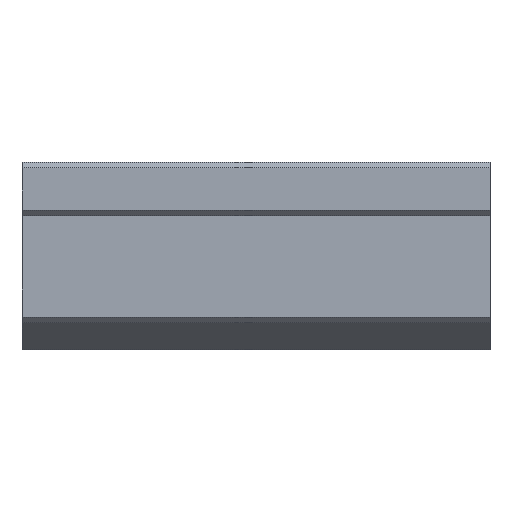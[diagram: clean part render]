
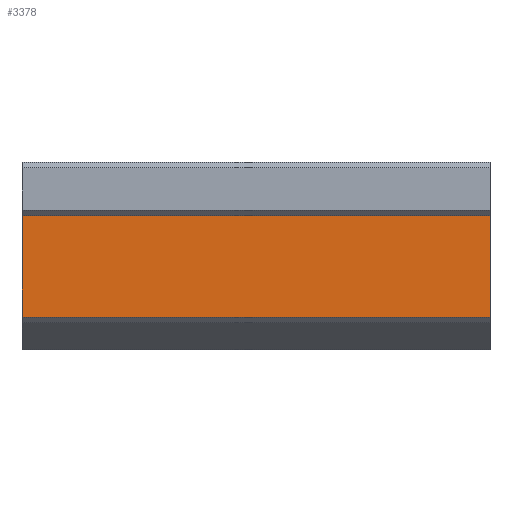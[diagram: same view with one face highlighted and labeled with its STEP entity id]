
A CAD part, top view. The second image highlights one B-rep face of the part: STEP entity #3378.
In plain terms, the highlighted planar face has unit normal (0, 0, 1).
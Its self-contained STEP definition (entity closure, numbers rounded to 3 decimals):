
#106 = PLANE('',#107);
#107 = AXIS2_PLACEMENT_3D('',#108,#109,#110);
#108 = CARTESIAN_POINT('',(35.,2.493,0.));
#109 = DIRECTION('',(1.,0.,0.));
#110 = DIRECTION('',(0.,0.,-1.));
#170 = PLANE('',#171);
#171 = AXIS2_PLACEMENT_3D('',#172,#173,#174);
#172 = CARTESIAN_POINT('',(-35.,2.493,0.));
#173 = DIRECTION('',(1.,0.,0.));
#174 = DIRECTION('',(0.,0.,-1.));
#3269 = PLANE('',#3270);
#3270 = AXIS2_PLACEMENT_3D('',#3271,#3272,#3273);
#3271 = CARTESIAN_POINT('',(-35.,-8.58,19.74));
#3272 = DIRECTION('',(0.,-0.707,0.707)
  );
#3273 = DIRECTION('',(0.,-0.707,-0.707)
  );
#3307 = VERTEX_POINT('',#3308);
#3308 = CARTESIAN_POINT('',(35.,-8.16,20.16));
#3329 = EDGE_CURVE('',#3330,#3307,#3332,.T.);
#3330 = VERTEX_POINT('',#3331);
#3331 = CARTESIAN_POINT('',(-35.,-8.16,20.16));
#3332 = SURFACE_CURVE('',#3333,(#3337,#3344),.PCURVE_S1.);
#3333 = LINE('',#3334,#3335);
#3334 = CARTESIAN_POINT('',(-35.,-8.16,20.16));
#3335 = VECTOR('',#3336,1.);
#3336 = DIRECTION('',(1.,0.,0.));
#3337 = PCURVE('',#3269,#3338);
#3338 = DEFINITIONAL_REPRESENTATION('',(#3339),#3343);
#3339 = LINE('',#3340,#3341);
#3340 = CARTESIAN_POINT('',(-0.594,0.));
#3341 = VECTOR('',#3342,1.);
#3342 = DIRECTION('',(0.,1.));
#3343 = ( GEOMETRIC_REPRESENTATION_CONTEXT(2) 
PARAMETRIC_REPRESENTATION_CONTEXT() REPRESENTATION_CONTEXT('2D SPACE',''
  ) );
#3344 = PCURVE('',#3345,#3350);
#3345 = PLANE('',#3346);
#3346 = AXIS2_PLACEMENT_3D('',#3347,#3348,#3349);
#3347 = CARTESIAN_POINT('',(-35.,-0.58,20.16));
#3348 = DIRECTION('',(0.,0.,1.));
#3349 = DIRECTION('',(0.,-1.,0.));
#3350 = DEFINITIONAL_REPRESENTATION('',(#3351),#3355);
#3351 = LINE('',#3352,#3353);
#3352 = CARTESIAN_POINT('',(7.58,0.));
#3353 = VECTOR('',#3354,1.);
#3354 = DIRECTION('',(0.,1.));
#3355 = ( GEOMETRIC_REPRESENTATION_CONTEXT(2) 
PARAMETRIC_REPRESENTATION_CONTEXT() REPRESENTATION_CONTEXT('2D SPACE',''
  ) );
#3378 = ADVANCED_FACE('',(#3379),#3345,.T.);
#3379 = FACE_BOUND('',#3380,.T.);
#3380 = EDGE_LOOP('',(#3381,#3404,#3432,#3453));
#3381 = ORIENTED_EDGE('',*,*,#3382,.T.);
#3382 = EDGE_CURVE('',#3307,#3383,#3385,.T.);
#3383 = VERTEX_POINT('',#3384);
#3384 = CARTESIAN_POINT('',(35.,7.,20.16));
#3385 = SURFACE_CURVE('',#3386,(#3390,#3397),.PCURVE_S1.);
#3386 = LINE('',#3387,#3388);
#3387 = CARTESIAN_POINT('',(35.,7.,20.16));
#3388 = VECTOR('',#3389,1.);
#3389 = DIRECTION('',(0.,1.,0.));
#3390 = PCURVE('',#3345,#3391);
#3391 = DEFINITIONAL_REPRESENTATION('',(#3392),#3396);
#3392 = LINE('',#3393,#3394);
#3393 = CARTESIAN_POINT('',(-7.58,70.));
#3394 = VECTOR('',#3395,1.);
#3395 = DIRECTION('',(-1.,0.));
#3396 = ( GEOMETRIC_REPRESENTATION_CONTEXT(2) 
PARAMETRIC_REPRESENTATION_CONTEXT() REPRESENTATION_CONTEXT('2D SPACE',''
  ) );
#3397 = PCURVE('',#106,#3398);
#3398 = DEFINITIONAL_REPRESENTATION('',(#3399),#3403);
#3399 = LINE('',#3400,#3401);
#3400 = CARTESIAN_POINT('',(-20.16,4.507));
#3401 = VECTOR('',#3402,1.);
#3402 = DIRECTION('',(0.,1.));
#3403 = ( GEOMETRIC_REPRESENTATION_CONTEXT(2) 
PARAMETRIC_REPRESENTATION_CONTEXT() REPRESENTATION_CONTEXT('2D SPACE',''
  ) );
#3404 = ORIENTED_EDGE('',*,*,#3405,.F.);
#3405 = EDGE_CURVE('',#3406,#3383,#3408,.T.);
#3406 = VERTEX_POINT('',#3407);
#3407 = CARTESIAN_POINT('',(-35.,7.,20.16));
#3408 = SURFACE_CURVE('',#3409,(#3413,#3420),.PCURVE_S1.);
#3409 = LINE('',#3410,#3411);
#3410 = CARTESIAN_POINT('',(-35.,7.,20.16));
#3411 = VECTOR('',#3412,1.);
#3412 = DIRECTION('',(1.,0.,0.));
#3413 = PCURVE('',#3345,#3414);
#3414 = DEFINITIONAL_REPRESENTATION('',(#3415),#3419);
#3415 = LINE('',#3416,#3417);
#3416 = CARTESIAN_POINT('',(-7.58,0.));
#3417 = VECTOR('',#3418,1.);
#3418 = DIRECTION('',(0.,1.));
#3419 = ( GEOMETRIC_REPRESENTATION_CONTEXT(2) 
PARAMETRIC_REPRESENTATION_CONTEXT() REPRESENTATION_CONTEXT('2D SPACE',''
  ) );
#3420 = PCURVE('',#3421,#3426);
#3421 = PLANE('',#3422);
#3422 = AXIS2_PLACEMENT_3D('',#3423,#3424,#3425);
#3423 = CARTESIAN_POINT('',(-35.,7.42,20.58));
#3424 = DIRECTION('',(0.,-0.707,0.707)
  );
#3425 = DIRECTION('',(0.,-0.707,-0.707)
  );
#3426 = DEFINITIONAL_REPRESENTATION('',(#3427),#3431);
#3427 = LINE('',#3428,#3429);
#3428 = CARTESIAN_POINT('',(0.594,0.));
#3429 = VECTOR('',#3430,1.);
#3430 = DIRECTION('',(0.,1.));
#3431 = ( GEOMETRIC_REPRESENTATION_CONTEXT(2) 
PARAMETRIC_REPRESENTATION_CONTEXT() REPRESENTATION_CONTEXT('2D SPACE',''
  ) );
#3432 = ORIENTED_EDGE('',*,*,#3433,.T.);
#3433 = EDGE_CURVE('',#3406,#3330,#3434,.T.);
#3434 = SURFACE_CURVE('',#3435,(#3439,#3446),.PCURVE_S1.);
#3435 = LINE('',#3436,#3437);
#3436 = CARTESIAN_POINT('',(-35.,7.,20.16));
#3437 = VECTOR('',#3438,1.);
#3438 = DIRECTION('',(0.,-1.,0.));
#3439 = PCURVE('',#3345,#3440);
#3440 = DEFINITIONAL_REPRESENTATION('',(#3441),#3445);
#3441 = LINE('',#3442,#3443);
#3442 = CARTESIAN_POINT('',(-7.58,0.));
#3443 = VECTOR('',#3444,1.);
#3444 = DIRECTION('',(1.,0.));
#3445 = ( GEOMETRIC_REPRESENTATION_CONTEXT(2) 
PARAMETRIC_REPRESENTATION_CONTEXT() REPRESENTATION_CONTEXT('2D SPACE',''
  ) );
#3446 = PCURVE('',#170,#3447);
#3447 = DEFINITIONAL_REPRESENTATION('',(#3448),#3452);
#3448 = LINE('',#3449,#3450);
#3449 = CARTESIAN_POINT('',(-20.16,4.507));
#3450 = VECTOR('',#3451,1.);
#3451 = DIRECTION('',(0.,-1.));
#3452 = ( GEOMETRIC_REPRESENTATION_CONTEXT(2) 
PARAMETRIC_REPRESENTATION_CONTEXT() REPRESENTATION_CONTEXT('2D SPACE',''
  ) );
#3453 = ORIENTED_EDGE('',*,*,#3329,.T.);
